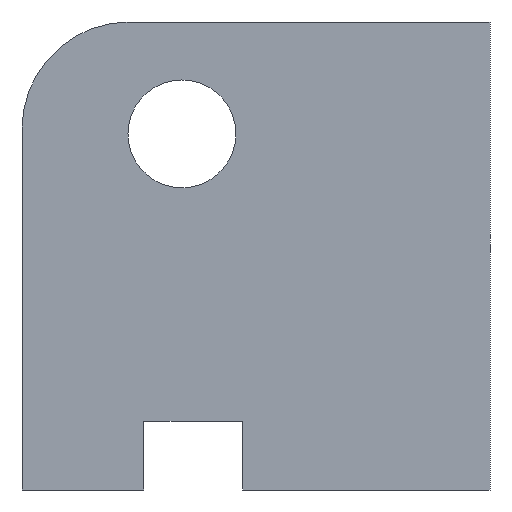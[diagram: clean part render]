
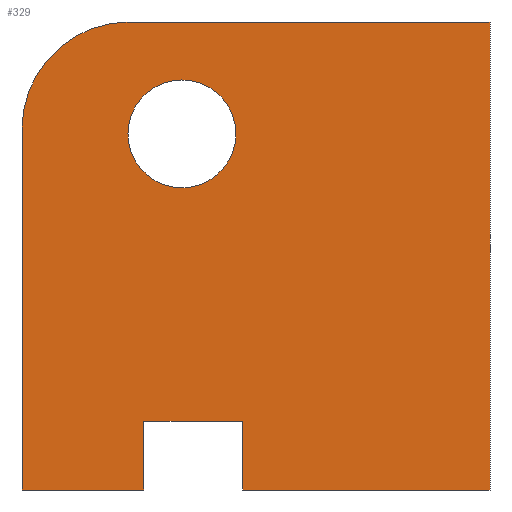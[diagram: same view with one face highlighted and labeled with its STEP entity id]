
A CAD part, front view. The second image highlights one B-rep face of the part: STEP entity #329.
In plain terms, the highlighted planar face has unit normal (0, -1, 0).
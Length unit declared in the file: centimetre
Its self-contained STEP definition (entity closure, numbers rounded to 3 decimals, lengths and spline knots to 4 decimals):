
#1 = CARTESIAN_POINT ( 'NONE',  ( 228.8263, 0., 771.1737 ) ) ;
#2 = DIRECTION ( 'NONE',  ( 0., 1., 0. ) ) ;
#21 = VERTEX_POINT ( 'NONE', #56 ) ;
#33 = DIRECTION ( 'NONE',  ( 1., 0., 0. ) ) ;
#42 = LINE ( 'NONE', #408, #339 ) ;
#49 = LINE ( 'NONE', #224, #68 ) ;
#52 = DIRECTION ( 'NONE',  ( 0., -1., 0. ) ) ;
#55 = VERTEX_POINT ( 'NONE', #252 ) ;
#56 = CARTESIAN_POINT ( 'NONE',  ( 471.3901, 0., 146.6182 ) ) ;
#66 = CARTESIAN_POINT ( 'NONE',  ( 0., 0., 0. ) ) ;
#68 = VECTOR ( 'NONE', #183, 100. ) ;
#70 = VERTEX_POINT ( 'NONE', #368 ) ;
#89 = VECTOR ( 'NONE', #398, 100. ) ;
#90 = EDGE_LOOP ( 'NONE', ( #131, #109, #114, #467, #260, #469, #146, #422, #271 ) ) ;
#91 = DIRECTION ( 'NONE',  ( 0., 0., -1. ) ) ;
#100 = DIRECTION ( 'NONE',  ( 0., -1., 0. ) ) ;
#101 = CARTESIAN_POINT ( 'NONE',  ( 341.6967, 0., 760.9645 ) ) ;
#103 = VECTOR ( 'NONE', #91, 100. ) ;
#108 = DIRECTION ( 'NONE',  ( 0., 0., 1. ) ) ;
#109 = ORIENTED_EDGE ( 'NONE', *, *, #240, .T. ) ;
#114 = ORIENTED_EDGE ( 'NONE', *, *, #476, .T. ) ;
#117 = CARTESIAN_POINT ( 'NONE',  ( 341.6967, 0., 760.9645 ) ) ;
#118 = VECTOR ( 'NONE', #233, 100. ) ;
#119 = VECTOR ( 'NONE', #164, 100. ) ;
#126 = DIRECTION ( 'NONE',  ( 0., 0., -1. ) ) ;
#131 = ORIENTED_EDGE ( 'NONE', *, *, #213, .T. ) ;
#136 = LINE ( 'NONE', #429, #119 ) ;
#142 = CARTESIAN_POINT ( 'NONE',  ( 471.3901, 0., 0. ) ) ;
#146 = ORIENTED_EDGE ( 'NONE', *, *, #320, .F. ) ;
#148 = CARTESIAN_POINT ( 'NONE',  ( 0., 0., 771.1737 ) ) ;
#158 = EDGE_CURVE ( 'NONE', #55, #404, #449, .T. ) ;
#162 = VERTEX_POINT ( 'NONE', #277 ) ;
#164 = DIRECTION ( 'NONE',  ( 0., 0., -1. ) ) ;
#168 = LINE ( 'NONE', #438, #89 ) ;
#172 = PLANE ( 'NONE',  #472 ) ;
#174 = ORIENTED_EDGE ( 'NONE', *, *, #158, .F. ) ;
#178 = CARTESIAN_POINT ( 'NONE',  ( 0., 0., 0. ) ) ;
#183 = DIRECTION ( 'NONE',  ( 1., 0., 0. ) ) ;
#189 = CARTESIAN_POINT ( 'NONE',  ( 341.6967, 0., 645.7377 ) ) ;
#193 = EDGE_CURVE ( 'NONE', #349, #359, #136, .T. ) ;
#207 = AXIS2_PLACEMENT_3D ( 'NONE', #117, #52, #414 ) ;
#213 = EDGE_CURVE ( 'NONE', #359, #254, #393, .T. ) ;
#214 = AXIS2_PLACEMENT_3D ( 'NONE', #101, #100, #465 ) ;
#217 = DIRECTION ( 'NONE',  ( 1., 0., 0. ) ) ;
#222 = CARTESIAN_POINT ( 'NONE',  ( 1000., 0., 1000. ) ) ;
#224 = CARTESIAN_POINT ( 'NONE',  ( 260.2001, 0., 146.6182 ) ) ;
#226 = CARTESIAN_POINT ( 'NONE',  ( 260.2001, 0., 146.6182 ) ) ;
#232 = AXIS2_PLACEMENT_3D ( 'NONE', #1, #249, #108 ) ;
#233 = DIRECTION ( 'NONE',  ( 1., 0., 0. ) ) ;
#240 = EDGE_CURVE ( 'NONE', #254, #380, #168, .T. ) ;
#245 = LINE ( 'NONE', #178, #298 ) ;
#246 = VERTEX_POINT ( 'NONE', #142 ) ;
#249 = DIRECTION ( 'NONE',  ( 0., -1., 0. ) ) ;
#252 = CARTESIAN_POINT ( 'NONE',  ( 341.6967, 0., 876.1913 ) ) ;
#254 = VERTEX_POINT ( 'NONE', #400 ) ;
#260 = ORIENTED_EDGE ( 'NONE', *, *, #294, .T. ) ;
#271 = ORIENTED_EDGE ( 'NONE', *, *, #193, .T. ) ;
#277 = CARTESIAN_POINT ( 'NONE',  ( 228.8263, 0., 1000. ) ) ;
#285 = EDGE_LOOP ( 'NONE', ( #478, #174 ) ) ;
#287 = DIRECTION ( 'NONE',  ( 0., 0., 1. ) ) ;
#294 = EDGE_CURVE ( 'NONE', #246, #70, #245, .T. ) ;
#298 = VECTOR ( 'NONE', #217, 100. ) ;
#318 = EDGE_CURVE ( 'NONE', #162, #349, #363, .T. ) ;
#320 = EDGE_CURVE ( 'NONE', #162, #428, #42, .T. ) ;
#321 = CARTESIAN_POINT ( 'NONE',  ( 0., 0., 1000. ) ) ;
#329 = ADVANCED_FACE ( 'NONE', ( #401, #477 ), #172, .F. ) ;
#336 = LINE ( 'NONE', #421, #103 ) ;
#339 = VECTOR ( 'NONE', #33, 100. ) ;
#349 = VERTEX_POINT ( 'NONE', #148 ) ;
#357 = CARTESIAN_POINT ( 'NONE',  ( 0., 0., 0. ) ) ;
#359 = VERTEX_POINT ( 'NONE', #357 ) ;
#363 = CIRCLE ( 'NONE', #232, 228.8263 ) ;
#367 = CIRCLE ( 'NONE', #207, 115.2268 ) ;
#368 = CARTESIAN_POINT ( 'NONE',  ( 1000., 0., 0. ) ) ;
#378 = LINE ( 'NONE', #452, #437 ) ;
#380 = VERTEX_POINT ( 'NONE', #226 ) ;
#388 = EDGE_CURVE ( 'NONE', #21, #246, #378, .T. ) ;
#393 = LINE ( 'NONE', #66, #118 ) ;
#398 = DIRECTION ( 'NONE',  ( 0., 0., 1. ) ) ;
#400 = CARTESIAN_POINT ( 'NONE',  ( 260.2001, 0., 0. ) ) ;
#401 = FACE_BOUND ( 'NONE', #285, .T. ) ;
#404 = VERTEX_POINT ( 'NONE', #189 ) ;
#408 = CARTESIAN_POINT ( 'NONE',  ( 0., 0., 1000. ) ) ;
#414 = DIRECTION ( 'NONE',  ( 0., 0., -1. ) ) ;
#421 = CARTESIAN_POINT ( 'NONE',  ( 1000., 0., 1000. ) ) ;
#422 = ORIENTED_EDGE ( 'NONE', *, *, #318, .T. ) ;
#425 = EDGE_CURVE ( 'NONE', #428, #70, #336, .T. ) ;
#428 = VERTEX_POINT ( 'NONE', #222 ) ;
#429 = CARTESIAN_POINT ( 'NONE',  ( 0., 0., 1000. ) ) ;
#437 = VECTOR ( 'NONE', #126, 100. ) ;
#438 = CARTESIAN_POINT ( 'NONE',  ( 260.2001, 0., 0. ) ) ;
#444 = EDGE_CURVE ( 'NONE', #404, #55, #367, .T. ) ;
#449 = CIRCLE ( 'NONE', #214, 115.2268 ) ;
#452 = CARTESIAN_POINT ( 'NONE',  ( 471.3901, 0., 0. ) ) ;
#465 = DIRECTION ( 'NONE',  ( 0., 0., -1. ) ) ;
#467 = ORIENTED_EDGE ( 'NONE', *, *, #388, .T. ) ;
#469 = ORIENTED_EDGE ( 'NONE', *, *, #425, .F. ) ;
#472 = AXIS2_PLACEMENT_3D ( 'NONE', #321, #2, #287 ) ;
#476 = EDGE_CURVE ( 'NONE', #380, #21, #49, .T. ) ;
#477 = FACE_OUTER_BOUND ( 'NONE', #90, .T. ) ;
#478 = ORIENTED_EDGE ( 'NONE', *, *, #444, .F. ) ;
